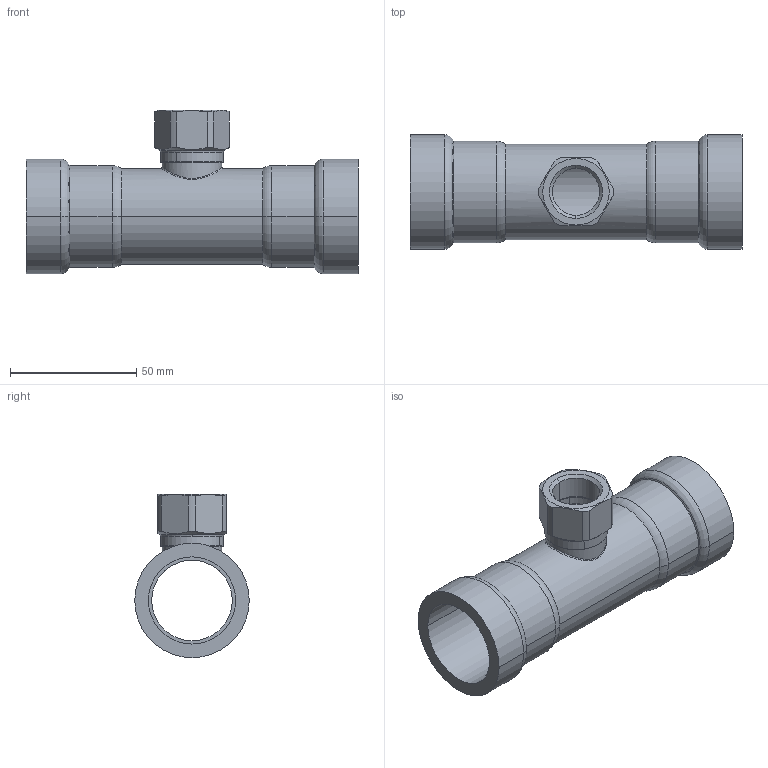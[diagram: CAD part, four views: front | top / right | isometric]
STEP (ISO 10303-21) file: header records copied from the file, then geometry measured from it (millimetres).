
FILE_DESCRIPTION(('Creo Elements/Direct Modeling STEP Export'),'2;1');
FILE_NAME('C9418_1_1-2_1.stp','2020-07-17T 8:27:31',(''),(''),'PTC Creo Elements/Direct Modeling STEP processor for AP214 (Solid Model)','PTC Creo Elements/Direct Modeling 19.0C 15-Aug-2015 (C) Parametric Technology GmbH','');
FILE_SCHEMA(('AUTOMOTIVE_DESIGN { 1 0 10303 214 1 1 1 1 }'));
Length unit declared in the file: millimetre
Products named in the file (2): C9418_1_1-2_1
Assembly tree (1 placements, depth 2):
  C9418_1_1-2_1
    C9418_1_1-2_1
Bounding box: 131.66 x 45.4 x 64.8 mm (x, y, z)
Volume: 60861.6 mm3; surface area: 36073.1 mm2
Topology: 1 solids, 1 shells, 78 faces, 198 edges, 126 vertices
Faces by surface type: cylinder 32, cone 16, torus 14, plane 12, bspline 4
Entity records: 5995 total; most frequent: CARTESIAN_POINT 4192, ORIENTED_EDGE 396, DIRECTION 342, EDGE_CURVE 198, AXIS2_PLACEMENT_3D 144, VERTEX_POINT 126, EDGE_LOOP 86, FACE_OUTER_BOUND 78
